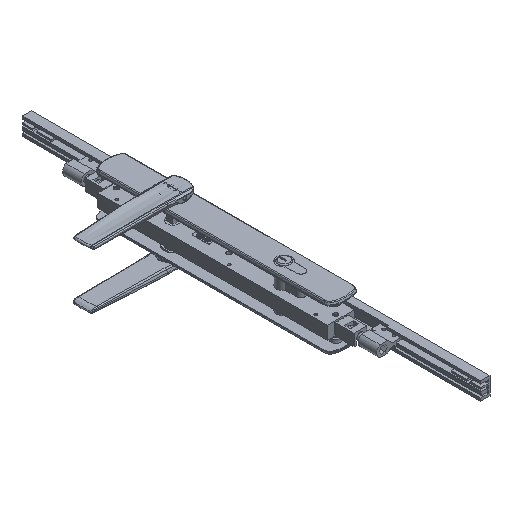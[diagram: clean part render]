
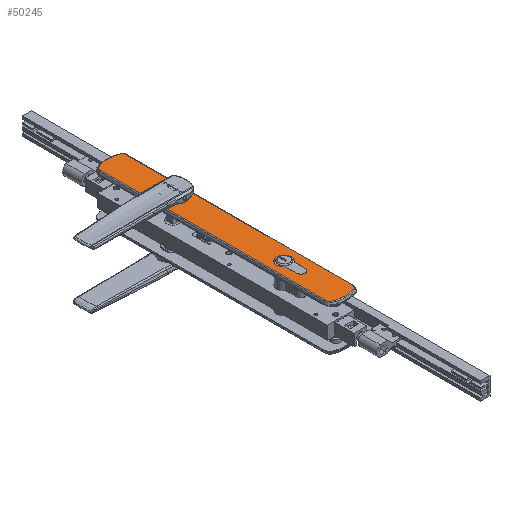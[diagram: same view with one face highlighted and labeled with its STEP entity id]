
A CAD part, isometric view. The second image highlights one B-rep face of the part: STEP entity #50245.
In plain terms, the highlighted planar face has unit normal (0, 0, 1).
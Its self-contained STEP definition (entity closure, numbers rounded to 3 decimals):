
#421 = DIRECTION ( 'NONE',  ( 0., 0., 1. ) ) ;
#760 = CIRCLE ( 'NONE', #30538, 34.55 ) ;
#1009 = AXIS2_PLACEMENT_3D ( 'NONE', #10697, #1373, #46195 ) ;
#1106 = AXIS2_PLACEMENT_3D ( 'NONE', #33842, #8971, #1226 ) ;
#1226 = DIRECTION ( 'NONE',  ( 1., 0., 0. ) ) ;
#1339 = DIRECTION ( 'NONE',  ( 0., 0., 1. ) ) ;
#1373 = DIRECTION ( 'NONE',  ( 0., 0., 1. ) ) ;
#1465 = DIRECTION ( 'NONE',  ( 1., 0., 0. ) ) ;
#1711 = AXIS2_PLACEMENT_3D ( 'NONE', #25752, #25486, #1950 ) ;
#1950 = DIRECTION ( 'NONE',  ( 1., 0., 0. ) ) ;
#2140 = CARTESIAN_POINT ( 'NONE',  ( 0., 42.979, 4. ) ) ;
#2543 = VERTEX_POINT ( 'NONE', #34037 ) ;
#3156 = VERTEX_POINT ( 'NONE', #36863 ) ;
#3418 = LINE ( 'NONE', #52486, #28735 ) ;
#3811 = ORIENTED_EDGE ( 'NONE', *, *, #19111, .T. ) ;
#4920 = CARTESIAN_POINT ( 'NONE',  ( -14.019, -201.057, 4. ) ) ;
#5679 = CARTESIAN_POINT ( 'NONE',  ( 8.7, -132., 4. ) ) ;
#6001 = VERTEX_POINT ( 'NONE', #27571 ) ;
#6114 = FACE_OUTER_BOUND ( 'NONE', #41820, .T. ) ;
#8326 = VERTEX_POINT ( 'NONE', #4920 ) ;
#8971 = DIRECTION ( 'NONE',  ( 0., 0., 1. ) ) ;
#9281 = DIRECTION ( 'NONE',  ( 0., 0., -1. ) ) ;
#9388 = CARTESIAN_POINT ( 'NONE',  ( -9.35, -196.637, 4. ) ) ;
#9842 = CARTESIAN_POINT ( 'NONE',  ( 5.2, -151.5, 4. ) ) ;
#10171 = DIRECTION ( 'NONE',  ( 1., 0., 0. ) ) ;
#10321 = CIRCLE ( 'NONE', #40112, 34.55 ) ;
#10697 = CARTESIAN_POINT ( 'NONE',  ( 0., -132., 4. ) ) ;
#10911 = FACE_BOUND ( 'NONE', #42641, .T. ) ;
#11497 = EDGE_CURVE ( 'NONE', #15801, #40982, #13958, .T. ) ;
#11723 = ORIENTED_EDGE ( 'NONE', *, *, #24633, .F. ) ;
#12352 = CARTESIAN_POINT ( 'NONE',  ( 15.779, -196.66, 4. ) ) ;
#13862 = ORIENTED_EDGE ( 'NONE', *, *, #16333, .F. ) ;
#13875 = EDGE_LOOP ( 'NONE', ( #40349, #44801 ) ) ;
#13892 = AXIS2_PLACEMENT_3D ( 'NONE', #21631, #1339, #46162 ) ;
#13958 = CIRCLE ( 'NONE', #38604, 6.88 ) ;
#14634 = DIRECTION ( 'NONE',  ( 0., 0., 1. ) ) ;
#15026 = DIRECTION ( 'NONE',  ( 0., 0., -1. ) ) ;
#15801 = VERTEX_POINT ( 'NONE', #49070 ) ;
#15909 = VERTEX_POINT ( 'NONE', #9842 ) ;
#15916 = EDGE_CURVE ( 'NONE', #3156, #15909, #43651, .T. ) ;
#16001 = EDGE_CURVE ( 'NONE', #31833, #45886, #49964, .T. ) ;
#16333 = EDGE_CURVE ( 'NONE', #2543, #3156, #43593, .T. ) ;
#17441 = DIRECTION ( 'NONE',  ( 1., 0., 0. ) ) ;
#17689 = AXIS2_PLACEMENT_3D ( 'NONE', #40235, #9281, #25304 ) ;
#17712 = EDGE_CURVE ( 'NONE', #40550, #31833, #29128, .T. ) ;
#18531 = CARTESIAN_POINT ( 'NONE',  ( -15.779, 0., 4. ) ) ;
#18556 = EDGE_CURVE ( 'NONE', #31068, #51521, #24005, .T. ) ;
#18661 = CARTESIAN_POINT ( 'NONE',  ( 0., 0., 4. ) ) ;
#18789 = CARTESIAN_POINT ( 'NONE',  ( 0., -132., 4. ) ) ;
#19111 = EDGE_CURVE ( 'NONE', #29230, #29836, #34929, .T. ) ;
#19549 = CARTESIAN_POINT ( 'NONE',  ( 0., 0., 4. ) ) ;
#19608 = CARTESIAN_POINT ( 'NONE',  ( -9.35, 70.137, 4. ) ) ;
#20094 = VERTEX_POINT ( 'NONE', #20386 ) ;
#20386 = CARTESIAN_POINT ( 'NONE',  ( 14.019, -201.057, 4. ) ) ;
#21331 = ORIENTED_EDGE ( 'NONE', *, *, #17712, .T. ) ;
#21631 = CARTESIAN_POINT ( 'NONE',  ( 9.35, -196.637, 4. ) ) ;
#21777 = ORIENTED_EDGE ( 'NONE', *, *, #15916, .F. ) ;
#22200 = AXIS2_PLACEMENT_3D ( 'NONE', #18789, #26548, #26801 ) ;
#22807 = DIRECTION ( 'NONE',  ( 1., 0., 0. ) ) ;
#22910 = PLANE ( 'NONE',  #25864 ) ;
#23026 = DIRECTION ( 'NONE',  ( 1., 0., 0. ) ) ;
#23156 = CARTESIAN_POINT ( 'NONE',  ( -15.779, 70.162, 4. ) ) ;
#24005 = CIRCLE ( 'NONE', #1009, 8.7 ) ;
#24633 = EDGE_CURVE ( 'NONE', #6001, #31068, #51168, .T. ) ;
#25304 = DIRECTION ( 'NONE',  ( 1., 0., 0. ) ) ;
#25486 = DIRECTION ( 'NONE',  ( 0., 0., 1. ) ) ;
#25715 = CIRCLE ( 'NONE', #37593, 6.429 ) ;
#25752 = CARTESIAN_POINT ( 'NONE',  ( 0., -132., 4. ) ) ;
#25864 = AXIS2_PLACEMENT_3D ( 'NONE', #18661, #31448, #34897 ) ;
#26480 = AXIS2_PLACEMENT_3D ( 'NONE', #19608, #43624, #22807 ) ;
#26548 = DIRECTION ( 'NONE',  ( 0., 0., 1. ) ) ;
#26801 = DIRECTION ( 'NONE',  ( 1., 0., 0. ) ) ;
#27571 = CARTESIAN_POINT ( 'NONE',  ( 5.2, -138.975, 4. ) ) ;
#27791 = ORIENTED_EDGE ( 'NONE', *, *, #48013, .T. ) ;
#28735 = VECTOR ( 'NONE', #52732, 1000. ) ;
#29128 = LINE ( 'NONE', #41382, #47440 ) ;
#29230 = VERTEX_POINT ( 'NONE', #36120 ) ;
#29317 = CARTESIAN_POINT ( 'NONE',  ( 15.779, 70.162, 4. ) ) ;
#29587 = CIRCLE ( 'NONE', #17689, 6.88 ) ;
#29836 = VERTEX_POINT ( 'NONE', #23156 ) ;
#30538 = AXIS2_PLACEMENT_3D ( 'NONE', #51301, #51561, #23026 ) ;
#30642 = FACE_BOUND ( 'NONE', #13875, .T. ) ;
#31068 = VERTEX_POINT ( 'NONE', #5679 ) ;
#31448 = DIRECTION ( 'NONE',  ( 0., 0., 1. ) ) ;
#31772 = CIRCLE ( 'NONE', #13892, 6.429 ) ;
#31833 = VERTEX_POINT ( 'NONE', #29317 ) ;
#32903 = AXIS2_PLACEMENT_3D ( 'NONE', #41236, #421, #1465 ) ;
#33325 = EDGE_CURVE ( 'NONE', #45886, #29230, #10321, .T. ) ;
#33394 = DIRECTION ( 'NONE',  ( 0., 1., 0. ) ) ;
#33665 = ORIENTED_EDGE ( 'NONE', *, *, #45392, .T. ) ;
#33842 = CARTESIAN_POINT ( 'NONE',  ( 0., -151.5, 4. ) ) ;
#34037 = CARTESIAN_POINT ( 'NONE',  ( -5.2, -138.975, 4. ) ) ;
#34768 = LINE ( 'NONE', #18531, #52764 ) ;
#34897 = DIRECTION ( 'NONE',  ( 1., 0., 0. ) ) ;
#34929 = CIRCLE ( 'NONE', #26480, 6.429 ) ;
#35411 = VERTEX_POINT ( 'NONE', #35827 ) ;
#35482 = DIRECTION ( 'NONE',  ( 0., 0., 1. ) ) ;
#35541 = DIRECTION ( 'NONE',  ( 1., 0., 0. ) ) ;
#35657 = ORIENTED_EDGE ( 'NONE', *, *, #37223, .F. ) ;
#35827 = CARTESIAN_POINT ( 'NONE',  ( -15.779, -196.66, 4. ) ) ;
#36120 = CARTESIAN_POINT ( 'NONE',  ( -14.019, 74.557, 4. ) ) ;
#36631 = CIRCLE ( 'NONE', #1711, 8.7 ) ;
#36863 = CARTESIAN_POINT ( 'NONE',  ( -5.2, -151.5, 4. ) ) ;
#37223 = EDGE_CURVE ( 'NONE', #15909, #6001, #3418, .T. ) ;
#37271 = EDGE_CURVE ( 'NONE', #40982, #15801, #29587, .T. ) ;
#37593 = AXIS2_PLACEMENT_3D ( 'NONE', #9388, #14634, #17441 ) ;
#38123 = CARTESIAN_POINT ( 'NONE',  ( -8.7, -132., 4. ) ) ;
#38604 = AXIS2_PLACEMENT_3D ( 'NONE', #19549, #15026, #35541 ) ;
#39425 = ORIENTED_EDGE ( 'NONE', *, *, #33325, .T. ) ;
#39590 = DIRECTION ( 'NONE',  ( 0., -1., 0. ) ) ;
#39878 = CARTESIAN_POINT ( 'NONE',  ( 14.019, 74.557, 4. ) ) ;
#40112 = AXIS2_PLACEMENT_3D ( 'NONE', #2140, #35482, #10171 ) ;
#40214 = CARTESIAN_POINT ( 'NONE',  ( -6.88, 0., 4. ) ) ;
#40235 = CARTESIAN_POINT ( 'NONE',  ( 0., 0., 4. ) ) ;
#40349 = ORIENTED_EDGE ( 'NONE', *, *, #11497, .T. ) ;
#40550 = VERTEX_POINT ( 'NONE', #12352 ) ;
#40982 = VERTEX_POINT ( 'NONE', #40214 ) ;
#41236 = CARTESIAN_POINT ( 'NONE',  ( 9.35, 70.137, 4. ) ) ;
#41382 = CARTESIAN_POINT ( 'NONE',  ( 15.779, 0., 4. ) ) ;
#41633 = EDGE_CURVE ( 'NONE', #8326, #20094, #760, .T. ) ;
#41820 = EDGE_LOOP ( 'NONE', ( #33665, #27791, #48757, #43537, #21331, #50154, #39425, #3811 ) ) ;
#41842 = ORIENTED_EDGE ( 'NONE', *, *, #43795, .F. ) ;
#42641 = EDGE_LOOP ( 'NONE', ( #11723, #35657, #21777, #13862, #41842, #51925 ) ) ;
#43537 = ORIENTED_EDGE ( 'NONE', *, *, #49621, .T. ) ;
#43593 = LINE ( 'NONE', #43862, #49158 ) ;
#43624 = DIRECTION ( 'NONE',  ( 0., 0., 1. ) ) ;
#43651 = CIRCLE ( 'NONE', #1106, 5.2 ) ;
#43795 = EDGE_CURVE ( 'NONE', #51521, #2543, #36631, .T. ) ;
#43862 = CARTESIAN_POINT ( 'NONE',  ( -5.2, -151.5, 4. ) ) ;
#44801 = ORIENTED_EDGE ( 'NONE', *, *, #37271, .T. ) ;
#45392 = EDGE_CURVE ( 'NONE', #29836, #35411, #34768, .T. ) ;
#45886 = VERTEX_POINT ( 'NONE', #39878 ) ;
#46162 = DIRECTION ( 'NONE',  ( 1., 0., 0. ) ) ;
#46195 = DIRECTION ( 'NONE',  ( 1., 0., 0. ) ) ;
#47440 = VECTOR ( 'NONE', #33394, 1000. ) ;
#48013 = EDGE_CURVE ( 'NONE', #35411, #8326, #25715, .T. ) ;
#48757 = ORIENTED_EDGE ( 'NONE', *, *, #41633, .T. ) ;
#49070 = CARTESIAN_POINT ( 'NONE',  ( 6.88, 0., 4. ) ) ;
#49158 = VECTOR ( 'NONE', #39590, 1000. ) ;
#49621 = EDGE_CURVE ( 'NONE', #20094, #40550, #31772, .T. ) ;
#49964 = CIRCLE ( 'NONE', #32903, 6.429 ) ;
#50154 = ORIENTED_EDGE ( 'NONE', *, *, #16001, .T. ) ;
#50245 = ADVANCED_FACE ( 'NONE', ( #30642, #6114, #10911 ), #22910, .T. ) ;
#50779 = DIRECTION ( 'NONE',  ( 0., -1., 0. ) ) ;
#51168 = CIRCLE ( 'NONE', #22200, 8.7 ) ;
#51301 = CARTESIAN_POINT ( 'NONE',  ( 0., -169.479, 4. ) ) ;
#51521 = VERTEX_POINT ( 'NONE', #38123 ) ;
#51561 = DIRECTION ( 'NONE',  ( 0., 0., 1. ) ) ;
#51925 = ORIENTED_EDGE ( 'NONE', *, *, #18556, .F. ) ;
#52486 = CARTESIAN_POINT ( 'NONE',  ( 5.2, -151.5, 4. ) ) ;
#52732 = DIRECTION ( 'NONE',  ( 0., 1., 0. ) ) ;
#52764 = VECTOR ( 'NONE', #50779, 1000. ) ;
